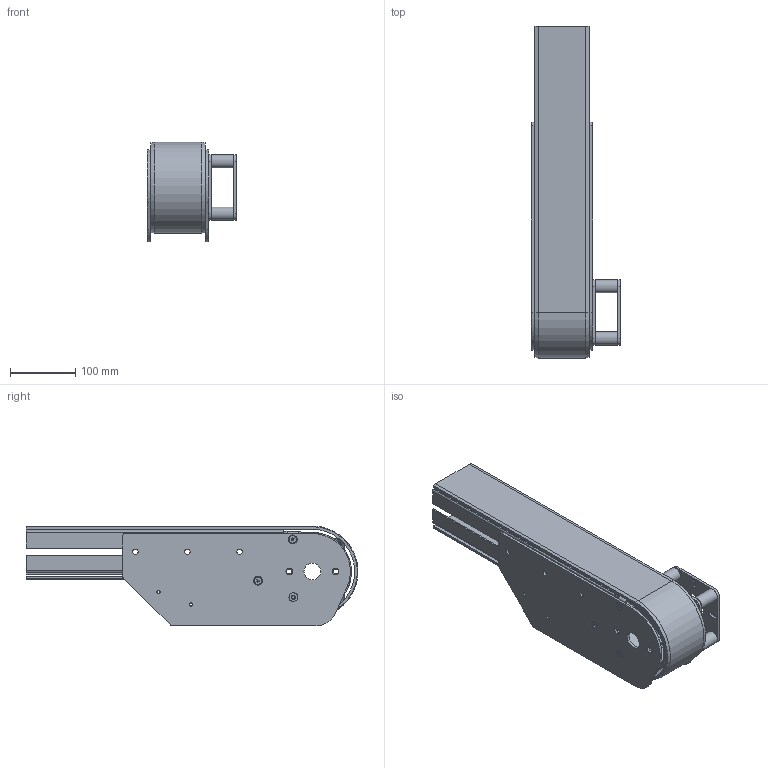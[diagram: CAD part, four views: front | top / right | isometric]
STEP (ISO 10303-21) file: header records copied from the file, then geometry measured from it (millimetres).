
FILE_DESCRIPTION(/* description */ ('DRIVE UNIT S530'),/* implementation_level */ '2;1');
FILE_NAME(/* name */ '530-30-VL.stp',/* time_stamp */ '2022-09-20T12:16:57+02:00',/* author */ ('PL'),/* organization */ ('CARRYLINE'),/* preprocessor_version */ 'ST-DEVELOPER v19.2',/* originating_system */ 'Autodesk Inventor 2023',/* authorisation */ '');
FILE_SCHEMA (('AUTOMOTIVE_DESIGN { 1 0 10303 214 3 1 1 }'));
Length unit declared in the file: millimetre
Products named in the file (5): 530-30-VL; Drivände S530; 500-3077; 500-3150; 500-3075
Assembly tree (7 placements, depth 2):
  530-30-VL
    Drivände S530
    500-3077
    500-3150  x4
    500-3075
Bounding box: 137 x 509.96 x 153.5 mm (x, y, z)
Volume: 1175220.7 mm3; surface area: 536166.5 mm2
Topology: 7 solids, 7 shells, 409 faces, 1046 edges, 654 vertices
Faces by surface type: plane 224, cylinder 136, cone 49
Full cylindrical faces by diameter (mm): 5.2 x4, 6 x6, 6.2 x6, 6.647 x4, 8.2 x6, 10.2 x4, 11 x8, 11.34 x5, 20 x4, 26 x3, 37 x1
Entity records: 12427 total; most frequent: CARTESIAN_POINT 2162, DIRECTION 2068, ORIENTED_EDGE 1992, EDGE_CURVE 996, AXIS2_PLACEMENT_3D 718, LINE 632, VECTOR 632, VERTEX_POINT 627
